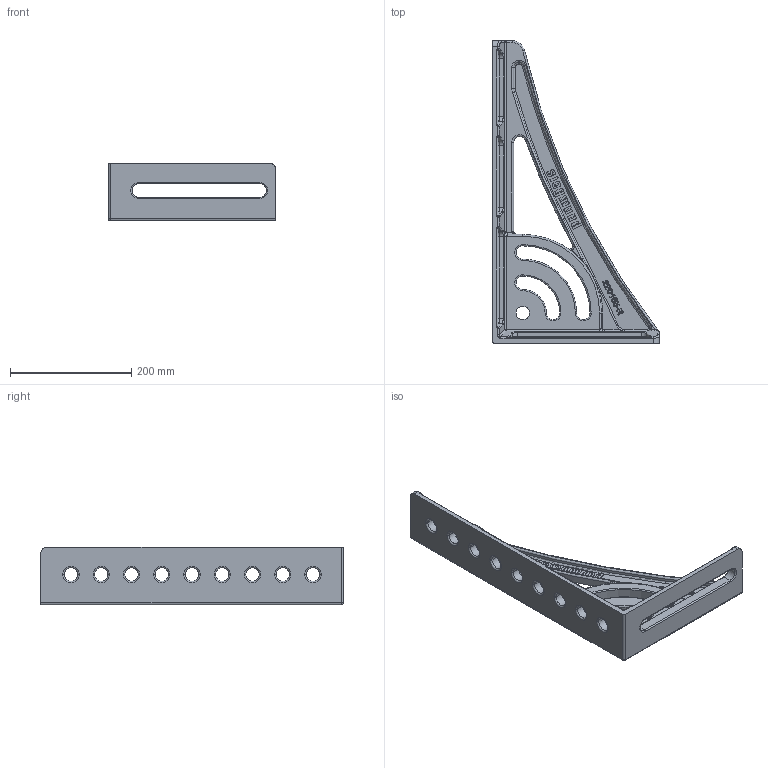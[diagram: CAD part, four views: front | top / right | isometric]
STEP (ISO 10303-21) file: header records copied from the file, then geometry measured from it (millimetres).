
FILE_DESCRIPTION (( 'STEP AP203' ), '1' );
FILE_NAME ('220165.STEP', '2020-03-02T10:58:03', ( '' ), ( '' ), 'SwSTEP 2.0', 'SolidWorks 2019', '' );
FILE_SCHEMA (( 'CONFIG_CONTROL_DESIGN' ));
Length unit declared in the file: millimetre
Products named in the file (2): 220164_Spanndrehwinkel 500 Links_Foto^220164_165 Anschlag- und Spannwinkel 500 G mit Drehwinkel_rechts; 220165
Assembly tree (1 placements, depth 2):
  220165
    220164_Spanndrehwinkel 500 Links_Foto^220164_165 Anschlag- und Spannwinkel 500 G mit Drehwinkel_rechts
Bounding box: 276 x 500 x 95 mm (x, y, z)
Volume: 1682039.1 mm3; surface area: 285653 mm2
Topology: 1 solids, 1 shells, 651 faces, 1682 edges, 1054 vertices
Faces by surface type: bspline 249, plane 153, cylinder 147, torus 79, cone 18, sphere 5
Entity records: 28413 total; most frequent: CARTESIAN_POINT 13857, ORIENTED_EDGE 3346, DIRECTION 2437, EDGE_CURVE 1673, VERTEX_POINT 1054, AXIS2_PLACEMENT_3D 865, EDGE_LOOP 709, LINE 707
